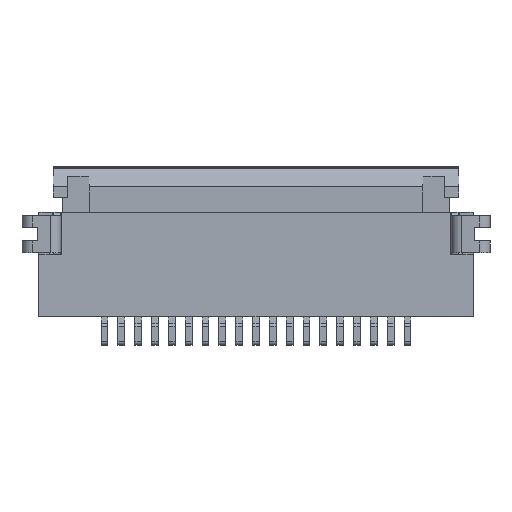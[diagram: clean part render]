
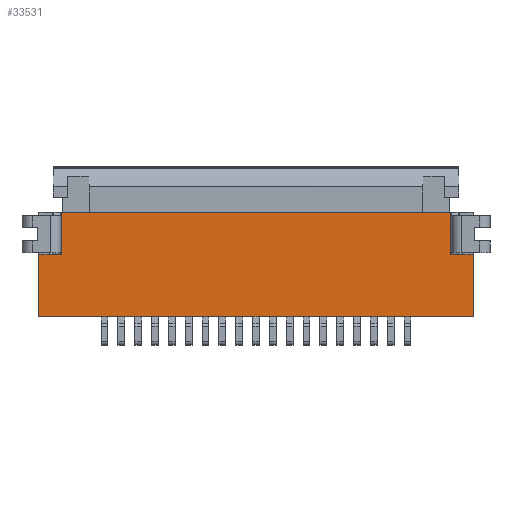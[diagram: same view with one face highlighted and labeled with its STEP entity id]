
A CAD part, top view. The second image highlights one B-rep face of the part: STEP entity #33531.
In plain terms, the highlighted planar face has unit normal (0, 0, 1).
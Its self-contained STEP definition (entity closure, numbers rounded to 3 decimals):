
#8699=DIRECTION('',(-1.,0.,0.));
#8700=VECTOR('',#8699,12.9);
#8701=CARTESIAN_POINT('',(2.7,-3.1,1.55));
#8702=LINE('',#8701,#8700);
#8703=DIRECTION('',(1.,0.,0.));
#8704=VECTOR('',#8703,11.56);
#8705=CARTESIAN_POINT('',(-9.53,0.,1.55));
#8706=LINE('',#8705,#8704);
#8707=DIRECTION('',(1.,0.,0.));
#8708=VECTOR('',#8707,0.67);
#8709=CARTESIAN_POINT('',(2.03,-1.25,1.55));
#8710=LINE('',#8709,#8708);
#8934=DIRECTION('',(0.,-1.,0.));
#8935=VECTOR('',#8934,1.25);
#8936=CARTESIAN_POINT('',(-9.53,0.,1.55));
#8937=LINE('',#8936,#8935);
#8982=DIRECTION('',(-1.,0.,0.));
#8983=VECTOR('',#8982,0.67);
#8984=CARTESIAN_POINT('',(-9.53,-1.25,1.55));
#8985=LINE('',#8984,#8983);
#9014=DIRECTION('',(0.,-1.,0.));
#9015=VECTOR('',#9014,1.85);
#9016=CARTESIAN_POINT('',(-10.2,-1.25,1.55));
#9017=LINE('',#9016,#9015);
#12216=DIRECTION('',(0.,1.,0.));
#12217=VECTOR('',#12216,1.85);
#12218=CARTESIAN_POINT('',(2.7,-3.1,1.55));
#12219=LINE('',#12218,#12217);
#12284=DIRECTION('',(0.,1.,0.));
#12285=VECTOR('',#12284,1.25);
#12286=CARTESIAN_POINT('',(2.03,-1.25,1.55));
#12287=LINE('',#12286,#12285);
#18307=CARTESIAN_POINT('',(2.7,-3.1,1.55));
#18308=VERTEX_POINT('',#18307);
#18309=CARTESIAN_POINT('',(2.7,-1.25,1.55));
#18310=VERTEX_POINT('',#18309);
#18355=CARTESIAN_POINT('',(2.03,-1.25,1.55));
#18356=CARTESIAN_POINT('',(2.03,0.,1.55));
#18357=VERTEX_POINT('',#18355);
#18358=VERTEX_POINT('',#18356);
#20540=CARTESIAN_POINT('',(-10.2,-3.1,1.55));
#20541=VERTEX_POINT('',#20540);
#20656=CARTESIAN_POINT('',(-9.53,0.,1.55));
#20657=VERTEX_POINT('',#20656);
#20658=CARTESIAN_POINT('',(-9.53,-1.25,1.55));
#20659=VERTEX_POINT('',#20658);
#21178=CARTESIAN_POINT('',(-10.2,-1.25,1.55));
#21179=VERTEX_POINT('',#21178);
#33509=CARTESIAN_POINT('',(-8.7,0.,1.55));
#33510=DIRECTION('',(0.,0.,1.));
#33511=DIRECTION('',(0.,-1.,0.));
#33512=AXIS2_PLACEMENT_3D('',#33509,#33510,#33511);
#33513=PLANE('',#33512);
#33515=ORIENTED_EDGE('',*,*,#33514,.T.);
#33517=ORIENTED_EDGE('',*,*,#33516,.F.);
#33519=ORIENTED_EDGE('',*,*,#33518,.F.);
#33521=ORIENTED_EDGE('',*,*,#33520,.F.);
#33522=ORIENTED_EDGE('',*,*,#33417,.T.);
#33524=ORIENTED_EDGE('',*,*,#33523,.F.);
#33526=ORIENTED_EDGE('',*,*,#33525,.T.);
#33528=ORIENTED_EDGE('',*,*,#33527,.F.);
#33529=EDGE_LOOP('',(#33515,#33517,#33519,#33521,#33522,#33524,#33526,#33528));
#33530=FACE_OUTER_BOUND('',#33529,.F.);
#33417=EDGE_CURVE('',#20657,#18358,#8706,.T.);
#33514=EDGE_CURVE('',#18308,#20541,#8702,.T.);
#33516=EDGE_CURVE('',#21179,#20541,#9017,.T.);
#33518=EDGE_CURVE('',#20659,#21179,#8985,.T.);
#33520=EDGE_CURVE('',#20657,#20659,#8937,.T.);
#33523=EDGE_CURVE('',#18357,#18358,#12287,.T.);
#33525=EDGE_CURVE('',#18357,#18310,#8710,.T.);
#33527=EDGE_CURVE('',#18308,#18310,#12219,.T.);
#33531=ADVANCED_FACE('',(#33530),#33513,.T.);
